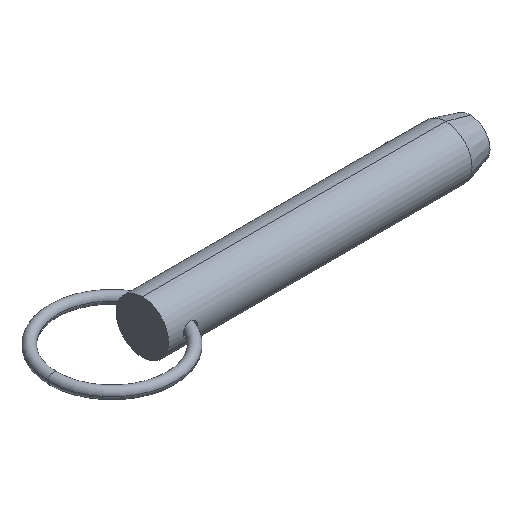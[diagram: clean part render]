
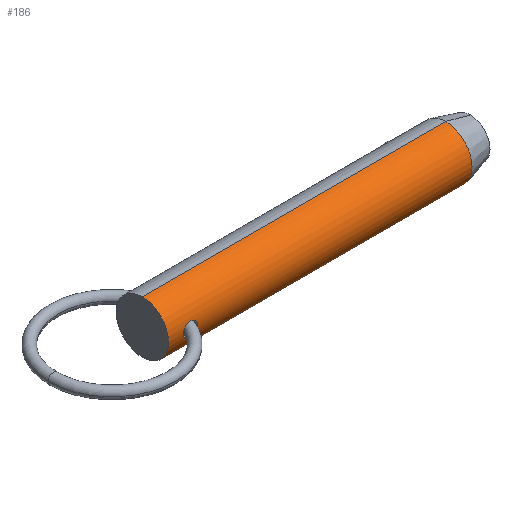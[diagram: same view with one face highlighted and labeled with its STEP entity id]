
A CAD part, isometric view. The second image highlights one B-rep face of the part: STEP entity #186.
In plain terms, the highlighted cylindrical face has radius 7.11 mm (diameter 14.22 mm), a partial arc.
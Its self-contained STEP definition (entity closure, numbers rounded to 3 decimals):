
#6 = CARTESIAN_POINT ( 'NONE',  ( 0., 0., 7.11 ) ) ;
#8 = CARTESIAN_POINT ( 'NONE',  ( 4.701, -6.983, -1.341 ) ) ;
#14 = CARTESIAN_POINT ( 'NONE',  ( 6.467, -6.89, -1.756 ) ) ;
#33 = ORIENTED_EDGE ( 'NONE', *, *, #643, .T. ) ;
#36 = CARTESIAN_POINT ( 'NONE',  ( 0., 0., 0. ) ) ;
#44 = CARTESIAN_POINT ( 'NONE',  ( 6.932, -6.93, 1.591 ) ) ;
#49 = AXIS2_PLACEMENT_3D ( 'NONE', #545, #751, #620 ) ;
#51 = VERTEX_POINT ( 'NONE', #670 ) ;
#72 = CARTESIAN_POINT ( 'NONE',  ( 7.248, -6.972, -1.395 ) ) ;
#76 = CARTESIAN_POINT ( 'NONE',  ( 4.007, -7.096, -0.494 ) ) ;
#79 = CARTESIAN_POINT ( 'NONE',  ( 5.019, -6.944, -1.531 ) ) ;
#83 = CARTESIAN_POINT ( 'NONE',  ( 6.821, -6.918, -1.64 ) ) ;
#108 = CARTESIAN_POINT ( 'NONE',  ( 4.513, -7.01, 1.19 ) ) ;
#111 = ORIENTED_EDGE ( 'NONE', *, *, #581, .F. ) ;
#116 = CARTESIAN_POINT ( 'NONE',  ( 7.92, -7.11, -0.124 ) ) ;
#118 = CARTESIAN_POINT ( 'NONE',  ( 5.365, -6.911, 1.67 ) ) ;
#132 = CARTESIAN_POINT ( 'NONE',  ( 3.936, -7.11, 0. ) ) ;
#145 = CARTESIAN_POINT ( 'NONE',  ( 7.147, -6.957, -1.468 ) ) ;
#148 = VERTEX_POINT ( 'NONE', #881 ) ;
#164 = ORIENTED_EDGE ( 'NONE', *, *, #796, .T. ) ;
#174 = VERTEX_POINT ( 'NONE', #261 ) ;
#177 = CARTESIAN_POINT ( 'NONE',  ( 6.217, -6.882, 1.786 ) ) ;
#179 = EDGE_CURVE ( 'NONE', #51, #315, #325, .T. ) ;
#186 = ADVANCED_FACE ( 'NONE', ( #214, #412 ), #765, .T. ) ;
#187 = CARTESIAN_POINT ( 'NONE',  ( 5.019, -6.942, 1.541 ) ) ;
#194 = EDGE_CURVE ( 'NONE', #174, #639, #818, .T. ) ;
#208 = CARTESIAN_POINT ( 'NONE',  ( 5.481, -6.903, -1.704 ) ) ;
#214 = FACE_OUTER_BOUND ( 'NONE', #735, .T. ) ;
#227 = DIRECTION ( 'NONE',  ( 1., 0., 0. ) ) ;
#243 = CARTESIAN_POINT ( 'NONE',  ( 6.818, -6.918, 1.641 ) ) ;
#248 = CARTESIAN_POINT ( 'NONE',  ( 7.92, -7.11, 0. ) ) ;
#261 = CARTESIAN_POINT ( 'NONE',  ( 0., 0., 7.11 ) ) ;
#265 = CARTESIAN_POINT ( 'NONE',  ( 7.857, -7.094, -0.489 ) ) ;
#271 = CARTESIAN_POINT ( 'NONE',  ( 3.936, -7.11, 0. ) ) ;
#274 = CARTESIAN_POINT ( 'NONE',  ( 7.67, -7.05, -0.946 ) ) ;
#292 = CARTESIAN_POINT ( 'NONE',  ( 0., 0., -7.11 ) ) ;
#305 = CARTESIAN_POINT ( 'NONE',  ( 7.718, -7.062, 0.836 ) ) ;
#312 = CARTESIAN_POINT ( 'NONE',  ( 7.147, -6.957, 1.468 ) ) ;
#315 = VERTEX_POINT ( 'NONE', #132 ) ;
#325 = B_SPLINE_CURVE_WITH_KNOTS ( 'NONE', 3,
 ( #730, #116, #537, #265, #802, #274, #493, #72, #145, #418, #83, #14, #558, #342, #478, #208, #554, #352, #79, #756, #8, #690, #748, #550, #482, #76, #346, #271 ),
 .UNSPECIFIED., .F., .F.,
 ( 4, 2, 2, 2, 2, 2, 2, 2, 2, 2, 2, 2, 2, 4 ),
 ( 0.006, 0.007, 0.007, 0.008, 0.008, 0.009, 0.009, 0.01, 0.01, 0.01, 0.011, 0.011, 0.011, 0.012 ),
 .UNSPECIFIED. ) ;
#342 = CARTESIAN_POINT ( 'NONE',  ( 5.846, -6.886, -1.77 ) ) ;
#346 = CARTESIAN_POINT ( 'NONE',  ( 3.936, -7.11, -0.248 ) ) ;
#351 = CARTESIAN_POINT ( 'NONE',  ( 3.936, -7.11, 0.248 ) ) ;
#352 = CARTESIAN_POINT ( 'NONE',  ( 5.13, -6.932, -1.582 ) ) ;
#380 = CARTESIAN_POINT ( 'NONE',  ( 7.869, -7.096, 0.496 ) ) ;
#384 = CARTESIAN_POINT ( 'NONE',  ( 5.727, -6.89, 1.755 ) ) ;
#388 = VECTOR ( 'NONE', #227, 1000. ) ;
#389 = CARTESIAN_POINT ( 'NONE',  ( 5.849, -6.886, 1.77 ) ) ;
#412 = FACE_BOUND ( 'NONE', #431, .T. ) ;
#418 = CARTESIAN_POINT ( 'NONE',  ( 6.933, -6.93, -1.59 ) ) ;
#424 = DIRECTION ( 'NONE',  ( 1., 0., 0. ) ) ;
#431 = EDGE_LOOP ( 'NONE', ( #164, #442 ) ) ;
#438 = CARTESIAN_POINT ( 'NONE',  ( 4.188, -7.064, 0.819 ) ) ;
#442 = ORIENTED_EDGE ( 'NONE', *, *, #179, .T. ) ;
#448 = DIRECTION ( 'NONE',  ( 1., 0., 0. ) ) ;
#454 = CARTESIAN_POINT ( 'NONE',  ( 4.8, -6.969, 1.419 ) ) ;
#457 = CARTESIAN_POINT ( 'NONE',  ( 7.513, -7.019, 1.141 ) ) ;
#478 = CARTESIAN_POINT ( 'NONE',  ( 5.723, -6.89, -1.754 ) ) ;
#482 = CARTESIAN_POINT ( 'NONE',  ( 4.186, -7.064, -0.815 ) ) ;
#493 = CARTESIAN_POINT ( 'NONE',  ( 7.522, -7.018, -1.15 ) ) ;
#503 = DIRECTION ( 'NONE',  ( 0., 0., -1. ) ) ;
#537 = CARTESIAN_POINT ( 'NONE',  ( 7.907, -7.107, -0.247 ) ) ;
#545 = CARTESIAN_POINT ( 'NONE',  ( 0., 0., 0. ) ) ;
#550 = CARTESIAN_POINT ( 'NONE',  ( 4.259, -7.051, -0.917 ) ) ;
#554 = CARTESIAN_POINT ( 'NONE',  ( 5.361, -6.912, -1.669 ) ) ;
#558 = CARTESIAN_POINT ( 'NONE',  ( 6.218, -6.882, -1.786 ) ) ;
#561 = LINE ( 'NONE', #292, #388 ) ;
#571 = CIRCLE ( 'NONE', #771, 7.11 ) ;
#581 = EDGE_CURVE ( 'NONE', #639, #148, #757, .T. ) ;
#612 = EDGE_CURVE ( 'NONE', #635, #148, #561, .T. ) ;
#620 = DIRECTION ( 'NONE',  ( 0., 0., -1. ) ) ;
#628 = B_SPLINE_CURVE_WITH_KNOTS ( 'NONE', 3,
 ( #759, #351, #835, #438, #732, #646, #108, #454, #187, #118, #858, #384, #389, #177, #662, #243, #44, #312, #870, #794, #457, #799, #305, #380, #726, #248 ),
 .UNSPECIFIED., .F., .F.,
 ( 4, 2, 2, 2, 2, 2, 2, 2, 2, 2, 2, 2, 4 ),
 ( 0., 0.001, 0.001, 0.002, 0.003, 0.003, 0.003, 0.004, 0.004, 0.005, 0.005, 0.006, 0.006 ),
 .UNSPECIFIED. ) ;
#635 = VERTEX_POINT ( 'NONE', #773 ) ;
#639 = VERTEX_POINT ( 'NONE', #712 ) ;
#643 = EDGE_CURVE ( 'NONE', #174, #635, #571, .T. ) ;
#646 = CARTESIAN_POINT ( 'NONE',  ( 4.424, -7.024, 1.106 ) ) ;
#648 = ORIENTED_EDGE ( 'NONE', *, *, #194, .F. ) ;
#655 = CARTESIAN_POINT ( 'NONE',  ( 82.236, 0., 0. ) ) ;
#662 = CARTESIAN_POINT ( 'NONE',  ( 6.469, -6.89, 1.755 ) ) ;
#670 = CARTESIAN_POINT ( 'NONE',  ( 7.92, -7.11, 0. ) ) ;
#690 = CARTESIAN_POINT ( 'NONE',  ( 4.509, -7.011, -1.187 ) ) ;
#712 = CARTESIAN_POINT ( 'NONE',  ( 82.236, 0., 7.11 ) ) ;
#717 = DIRECTION ( 'NONE',  ( 0., 0., -1. ) ) ;
#726 = CARTESIAN_POINT ( 'NONE',  ( 7.92, -7.11, 0.248 ) ) ;
#730 = CARTESIAN_POINT ( 'NONE',  ( 7.92, -7.11, 0. ) ) ;
#732 = CARTESIAN_POINT ( 'NONE',  ( 4.261, -7.051, 0.92 ) ) ;
#735 = EDGE_LOOP ( 'NONE', ( #648, #33, #763, #111 ) ) ;
#748 = CARTESIAN_POINT ( 'NONE',  ( 4.421, -7.025, -1.103 ) ) ;
#751 = DIRECTION ( 'NONE',  ( 1., 0., 0. ) ) ;
#756 = CARTESIAN_POINT ( 'NONE',  ( 4.805, -6.969, -1.41 ) ) ;
#757 = CIRCLE ( 'NONE', #805, 7.11 ) ;
#759 = CARTESIAN_POINT ( 'NONE',  ( 3.936, -7.11, 0. ) ) ;
#763 = ORIENTED_EDGE ( 'NONE', *, *, #612, .T. ) ;
#765 = CYLINDRICAL_SURFACE ( 'NONE', #49, 7.11 ) ;
#771 = AXIS2_PLACEMENT_3D ( 'NONE', #36, #844, #503 ) ;
#773 = CARTESIAN_POINT ( 'NONE',  ( 0., 0., -7.11 ) ) ;
#794 = CARTESIAN_POINT ( 'NONE',  ( 7.429, -7.003, 1.234 ) ) ;
#796 = EDGE_CURVE ( 'NONE', #315, #51, #628, .T. ) ;
#799 = CARTESIAN_POINT ( 'NONE',  ( 7.657, -7.048, 0.943 ) ) ;
#802 = CARTESIAN_POINT ( 'NONE',  ( 7.819, -7.085, -0.608 ) ) ;
#805 = AXIS2_PLACEMENT_3D ( 'NONE', #655, #448, #717 ) ;
#818 = LINE ( 'NONE', #6, #848 ) ;
#835 = CARTESIAN_POINT ( 'NONE',  ( 4.007, -7.096, 0.495 ) ) ;
#844 = DIRECTION ( 'NONE',  ( 1., 0., 0. ) ) ;
#848 = VECTOR ( 'NONE', #424, 1000. ) ;
#858 = CARTESIAN_POINT ( 'NONE',  ( 5.485, -6.903, 1.705 ) ) ;
#870 = CARTESIAN_POINT ( 'NONE',  ( 7.246, -6.972, 1.397 ) ) ;
#881 = CARTESIAN_POINT ( 'NONE',  ( 82.236, 0., -7.11 ) ) ;
